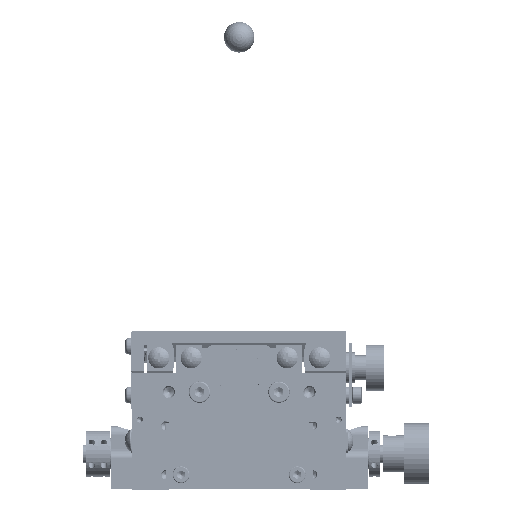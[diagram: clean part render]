
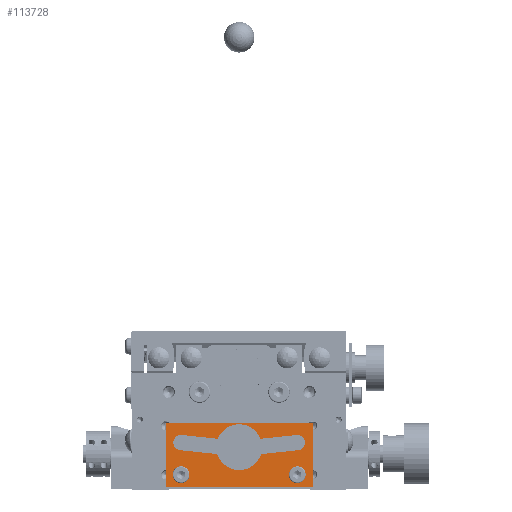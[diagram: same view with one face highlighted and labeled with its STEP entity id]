
A CAD part, front view. The second image highlights one B-rep face of the part: STEP entity #113728.
In plain terms, the highlighted planar face has unit normal (0, -1, 0) as drawn and (-1, 0, 0) by its records, which use the part's own axes.
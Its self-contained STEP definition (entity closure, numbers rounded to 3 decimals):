
#16606 = VERTEX_POINT ( 'NONE', #29911 ) ;
#16619 = VERTEX_POINT ( 'NONE', #29922 ) ;
#16625 = VERTEX_POINT ( 'NONE', #29932 ) ;
#16631 = VERTEX_POINT ( 'NONE', #29953 ) ;
#16949 = VERTEX_POINT ( 'NONE', #25280 ) ;
#16998 = VERTEX_POINT ( 'NONE', #25344 ) ;
#20119 = CARTESIAN_POINT ( 'NONE',  ( -37., -19.032, 15.506 ) ) ;
#20120 = DIRECTION ( 'NONE',  ( 1., 0., 0. ) ) ;
#20121 = DIRECTION ( 'NONE',  ( 0., 1., 0. ) ) ;
#20125 = CARTESIAN_POINT ( 'NONE',  ( -37., 0., 135. ) ) ;
#20127 = DIRECTION ( 'NONE',  ( -1., 0., 0. ) ) ;
#20129 = DIRECTION ( 'NONE',  ( 0., -1., 0. ) ) ;
#20132 = CARTESIAN_POINT ( 'NONE',  ( -37., 19.032, 15.506 ) ) ;
#20134 = DIRECTION ( 'NONE',  ( 1., 0., 0. ) ) ;
#20136 = DIRECTION ( 'NONE',  ( 0., 1., 0. ) ) ;
#20140 = CARTESIAN_POINT ( 'NONE',  ( -37., 0., 135. ) ) ;
#20142 = DIRECTION ( 'NONE',  ( 1., 0., 0. ) ) ;
#20143 = DIRECTION ( 'NONE',  ( 0., 1., 0. ) ) ;
#20146 = CARTESIAN_POINT ( 'NONE',  ( -37., -19., 5. ) ) ;
#20147 = DIRECTION ( 'NONE',  ( -1., 0., 0. ) ) ;
#20148 = DIRECTION ( 'NONE',  ( 0., -1., 0. ) ) ;
#25280 = CARTESIAN_POINT ( 'NONE',  ( -37., 21.45, 5. ) ) ;
#25344 = CARTESIAN_POINT ( 'NONE',  ( -37., 16.55, 5. ) ) ;
#29911 = CARTESIAN_POINT ( 'NONE',  ( -37., 18.592, 17.968 ) ) ;
#29922 = CARTESIAN_POINT ( 'NONE',  ( -37., -16.55, 5. ) ) ;
#29932 = CARTESIAN_POINT ( 'NONE',  ( -37., 21.532, 15.506 ) ) ;
#29953 = CARTESIAN_POINT ( 'NONE',  ( -37., -21.45, 5. ) ) ;
#41169 = CARTESIAN_POINT ( 'NONE',  ( -37., 24., 1. ) ) ;
#41176 = LINE ( 'NONE', #41169, #70563 ) ;
#41184 = CARTESIAN_POINT ( 'NONE',  ( -37., 19., 5. ) ) ;
#41186 = DIRECTION ( 'NONE',  ( -1., 0., 0. ) ) ;
#41187 = DIRECTION ( 'NONE',  ( 0., -1., 0. ) ) ;
#41190 = DIRECTION ( 'NONE',  ( 0., 0., 1. ) ) ;
#41192 = LINE ( 'NONE', #41195, #70568 ) ;
#41195 = CARTESIAN_POINT ( 'NONE',  ( -37., 24., 22. ) ) ;
#41197 = DIRECTION ( 'NONE',  ( 0., -1., 0. ) ) ;
#41198 = LINE ( 'NONE', #41201, #70570 ) ;
#41201 = CARTESIAN_POINT ( 'NONE',  ( -37., -24., 22. ) ) ;
#41203 = DIRECTION ( 'NONE',  ( 0., 0., -1. ) ) ;
#41205 = LINE ( 'NONE', #41211, #70573 ) ;
#41211 = CARTESIAN_POINT ( 'NONE',  ( -37., -24., 1. ) ) ;
#41213 = DIRECTION ( 'NONE',  ( 0., 1., 0. ) ) ;
#42340 = CARTESIAN_POINT ( 'NONE',  ( -37., 24., 22. ) ) ;
#42342 = CARTESIAN_POINT ( 'NONE',  ( -37., -24., 1. ) ) ;
#42346 = CARTESIAN_POINT ( 'NONE',  ( -37., -18.592, 17.968 ) ) ;
#42348 = CARTESIAN_POINT ( 'NONE',  ( -37., 24., 1. ) ) ;
#42351 = CARTESIAN_POINT ( 'NONE',  ( -37., -24., 22. ) ) ;
#42357 = CARTESIAN_POINT ( 'NONE',  ( -37., -19.473, 13.045 ) ) ;
#42377 = CARTESIAN_POINT ( 'NONE',  ( -37., 19.377, 13.03 ) ) ;
#63372 = EDGE_CURVE ( 'NONE', #77213, #77221, #134650, .T. ) ;
#63373 = EDGE_CURVE ( 'NONE', #16606, #77213, #134615, .T. ) ;
#63374 = EDGE_CURVE ( 'NONE', #77233, #16625, #134667, .T. ) ;
#63375 = EDGE_CURVE ( 'NONE', #77221, #77233, #134669, .T. ) ;
#63376 = EDGE_CURVE ( 'NONE', #16619, #16631, #134672, .T. ) ;
#63517 = EDGE_CURVE ( 'NONE', #16625, #16606, #135188, .T. ) ;
#63527 = EDGE_CURVE ( 'NONE', #16631, #16619, #135210, .T. ) ;
#63789 = EDGE_CURVE ( 'NONE', #16998, #16949, #136036, .T. ) ;
#70559 = CIRCLE ( 'NONE', #70565, 2.45 ) ;
#70563 = VECTOR ( 'NONE', #41190, 1000. ) ;
#70565 = AXIS2_PLACEMENT_3D ( 'NONE', #41184, #41186, #41187 ) ;
#70568 = VECTOR ( 'NONE', #41197, 1000. ) ;
#70570 = VECTOR ( 'NONE', #41203, 1000. ) ;
#70573 = VECTOR ( 'NONE', #41213, 1000. ) ;
#77207 = VERTEX_POINT ( 'NONE', #42340 ) ;
#77208 = VERTEX_POINT ( 'NONE', #42348 ) ;
#77210 = VERTEX_POINT ( 'NONE', #42342 ) ;
#77211 = VERTEX_POINT ( 'NONE', #42351 ) ;
#77213 = VERTEX_POINT ( 'NONE', #42346 ) ;
#77221 = VERTEX_POINT ( 'NONE', #42357 ) ;
#77233 = VERTEX_POINT ( 'NONE', #42377 ) ;
#78402 = ORIENTED_EDGE ( 'NONE', *, *, #95275, .F. ) ;
#78405 = ORIENTED_EDGE ( 'NONE', *, *, #63789, .F. ) ;
#78409 = ORIENTED_EDGE ( 'NONE', *, *, #95276, .F. ) ;
#78412 = ORIENTED_EDGE ( 'NONE', *, *, #95277, .F. ) ;
#78416 = ORIENTED_EDGE ( 'NONE', *, *, #95278, .F. ) ;
#78419 = ORIENTED_EDGE ( 'NONE', *, *, #95279, .F. ) ;
#78423 = ORIENTED_EDGE ( 'NONE', *, *, #63372, .T. ) ;
#78426 = ORIENTED_EDGE ( 'NONE', *, *, #63373, .T. ) ;
#78430 = ORIENTED_EDGE ( 'NONE', *, *, #63517, .T. ) ;
#85214 = EDGE_LOOP ( 'NONE', ( #129296, #129288 ) ) ;
#85217 = EDGE_LOOP ( 'NONE', ( #129282, #129274, #78430, #78426, #78423 ) ) ;
#85229 = EDGE_LOOP ( 'NONE', ( #78405, #78402 ) ) ;
#85239 = EDGE_LOOP ( 'NONE', ( #78419, #78416, #78412, #78409 ) ) ;
#95275 = EDGE_CURVE ( 'NONE', #16949, #16998, #70559, .T. ) ;
#95276 = EDGE_CURVE ( 'NONE', #77208, #77207, #41176, .T. ) ;
#95277 = EDGE_CURVE ( 'NONE', #77207, #77211, #41192, .T. ) ;
#95278 = EDGE_CURVE ( 'NONE', #77211, #77210, #41198, .T. ) ;
#95279 = EDGE_CURVE ( 'NONE', #77210, #77208, #41205, .T. ) ;
#106330 = CARTESIAN_POINT ( 'NONE',  ( -37., 19.032, 15.506 ) ) ;
#106331 = DIRECTION ( 'NONE',  ( 1., 0., 0. ) ) ;
#106332 = DIRECTION ( 'NONE',  ( 0., 1., 0. ) ) ;
#106360 = CARTESIAN_POINT ( 'NONE',  ( -37., -19., 5. ) ) ;
#106361 = DIRECTION ( 'NONE',  ( -1., 0., 0. ) ) ;
#106362 = DIRECTION ( 'NONE',  ( 0., -1., 0. ) ) ;
#113728 = ADVANCED_FACE ( 'NONE', ( #138597, #138602, #138588, #138595 ), #138603, .F. ) ;
#129274 = ORIENTED_EDGE ( 'NONE', *, *, #63374, .T. ) ;
#129282 = ORIENTED_EDGE ( 'NONE', *, *, #63375, .T. ) ;
#129288 = ORIENTED_EDGE ( 'NONE', *, *, #63376, .F. ) ;
#129296 = ORIENTED_EDGE ( 'NONE', *, *, #63527, .F. ) ;
#133905 = AXIS2_PLACEMENT_3D ( 'NONE', #138601, #138604, #138605 ) ;
#134615 = CIRCLE ( 'NONE', #134668, 118.5 ) ;
#134650 = CIRCLE ( 'NONE', #134660, 2.5 ) ;
#134660 = AXIS2_PLACEMENT_3D ( 'NONE', #20119, #20120, #20121 ) ;
#134667 = CIRCLE ( 'NONE', #134670, 2.5 ) ;
#134668 = AXIS2_PLACEMENT_3D ( 'NONE', #20125, #20127, #20129 ) ;
#134669 = CIRCLE ( 'NONE', #134673, 123.5 ) ;
#134670 = AXIS2_PLACEMENT_3D ( 'NONE', #20132, #20134, #20136 ) ;
#134672 = CIRCLE ( 'NONE', #134677, 2.45 ) ;
#134673 = AXIS2_PLACEMENT_3D ( 'NONE', #20140, #20142, #20143 ) ;
#134677 = AXIS2_PLACEMENT_3D ( 'NONE', #20146, #20147, #20148 ) ;
#135188 = CIRCLE ( 'NONE', #135191, 2.5 ) ;
#135191 = AXIS2_PLACEMENT_3D ( 'NONE', #106330, #106331, #106332 ) ;
#135210 = CIRCLE ( 'NONE', #135225, 2.45 ) ;
#135225 = AXIS2_PLACEMENT_3D ( 'NONE', #106360, #106361, #106362 ) ;
#136036 = CIRCLE ( 'NONE', #136054, 2.45 ) ;
#136054 = AXIS2_PLACEMENT_3D ( 'NONE', #136820, #136822, #136823 ) ;
#136820 = CARTESIAN_POINT ( 'NONE',  ( -37., 19., 5. ) ) ;
#136822 = DIRECTION ( 'NONE',  ( -1., 0., 0. ) ) ;
#136823 = DIRECTION ( 'NONE',  ( 0., -1., 0. ) ) ;
#138588 = FACE_OUTER_BOUND ( 'NONE', #85239, .T. ) ;
#138595 = FACE_BOUND ( 'NONE', #85229, .T. ) ;
#138597 = FACE_BOUND ( 'NONE', #85214, .T. ) ;
#138601 = CARTESIAN_POINT ( 'NONE',  ( -37., 0., 1. ) ) ;
#138602 = FACE_BOUND ( 'NONE', #85217, .T. ) ;
#138603 = PLANE ( 'NONE',  #133905 ) ;
#138604 = DIRECTION ( 'NONE',  ( 1., 0., 0. ) ) ;
#138605 = DIRECTION ( 'NONE',  ( 0., 1., 0. ) ) ;
